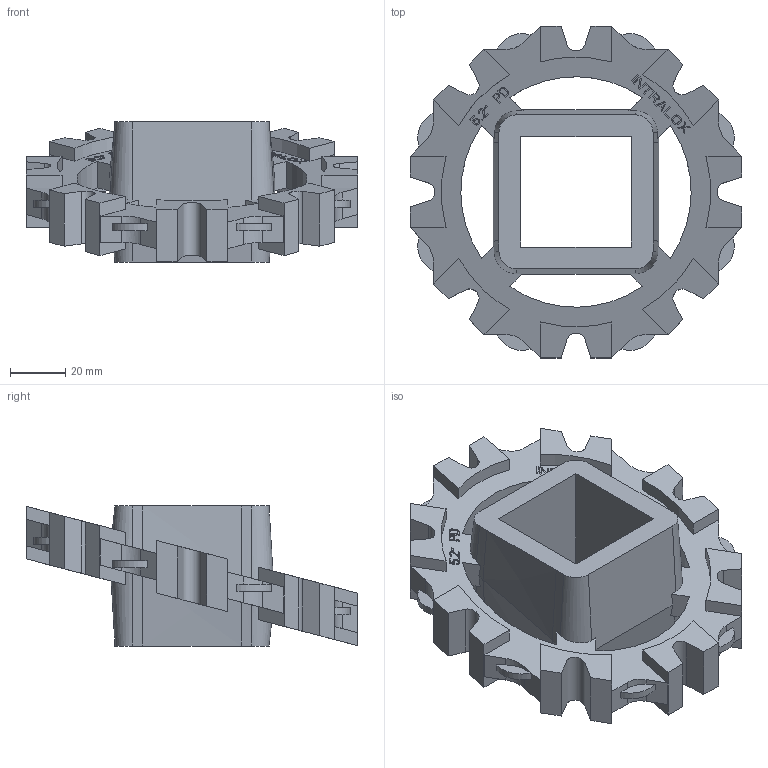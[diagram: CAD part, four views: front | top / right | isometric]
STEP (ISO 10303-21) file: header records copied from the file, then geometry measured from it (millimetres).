
FILE_DESCRIPTION((''),'2;1');
FILE_NAME('S800_ANGLEEZCLEAN_52X15_40_SQ','2008-12-12T',('jmumphre'),(''),'PRO/ENGINEER BY PARAMETRIC TECHNOLOGY CORPORATION, 2008150','PRO/ENGINEER BY PARAMETRIC TECHNOLOGY CORPORATION, 2008150','');
FILE_SCHEMA(('CONFIG_CONTROL_DESIGN'));
Length unit declared in the file: inch
Products named in the file (1): S800_ANGLEEZCLEAN_52X15_40_SQ
Bounding box: 120.36 x 120.36 x 50.8 mm (x, y, z)
Volume: 157417.2 mm3; surface area: 47554.4 mm2
Topology: 1 solids, 1 shells, 762 faces, 2146 edges, 1420 vertices
Faces by surface type: plane 674, cylinder 68, bspline 20
Entity records: 25713 total; most frequent: CARTESIAN_POINT 6223, ORIENTED_EDGE 4292, DIRECTION 3542, EDGE_CURVE 2146, VECTOR 1978, LINE 1978, VERTEX_POINT 1420, EDGE_LOOP 806
